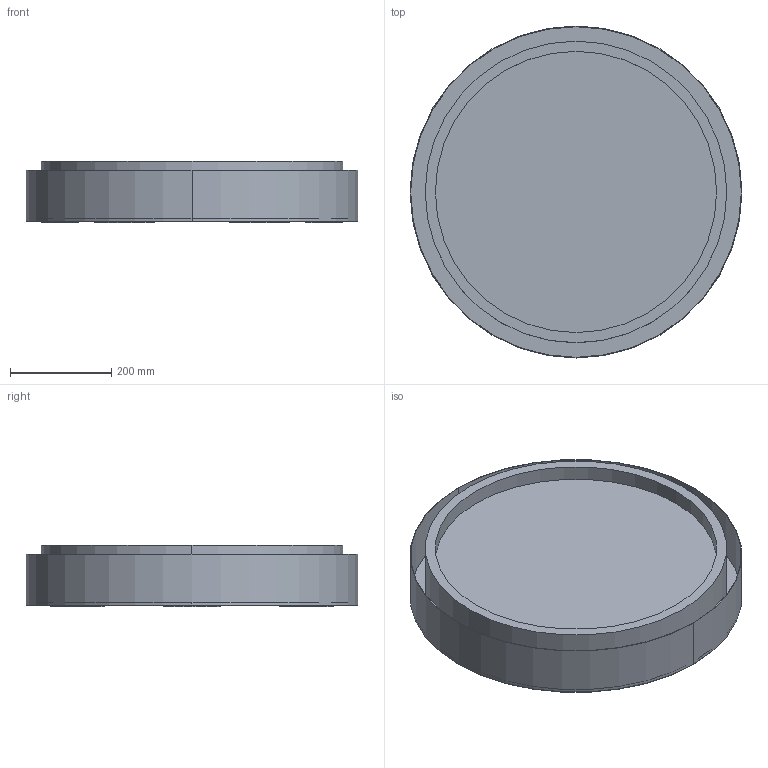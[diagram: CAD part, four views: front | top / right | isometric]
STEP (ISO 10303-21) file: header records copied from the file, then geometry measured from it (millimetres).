
FILE_DESCRIPTION (( 'STEP AP203' ), '1' );
FILE_NAME ('Okr¹g³a natynkowa 655mm.STEP', '2020-07-12T21:21:44', ( '' ), ( '' ), 'SwSTEP 2.0', 'SolidWorks 2012', '' );
FILE_SCHEMA (( 'CONFIG_CONTROL_DESIGN' ));
Length unit declared in the file: millimetre
Products named in the file (1): Okr鉚豉 natynkowa 655mm
Bounding box: 655 x 655 x 120.6 mm (x, y, z)
Volume: 6186543.2 mm3; surface area: 2026964.3 mm2
Topology: 2 solids, 2 shells, 250 faces, 642 edges, 428 vertices
Faces by surface type: cylinder 190, plane 60
Entity records: 7981 total; most frequent: DIRECTION 1524, CARTESIAN_POINT 1321, ORIENTED_EDGE 1284, EDGE_CURVE 642, AXIS2_PLACEMENT_3D 631, VERTEX_POINT 428, CIRCLE 380, EDGE_LOOP 332
